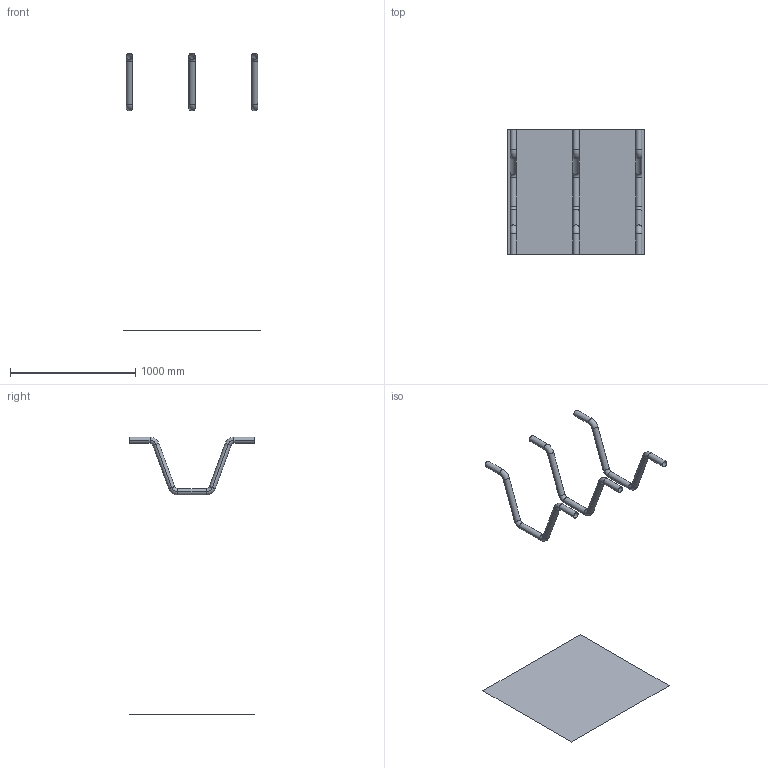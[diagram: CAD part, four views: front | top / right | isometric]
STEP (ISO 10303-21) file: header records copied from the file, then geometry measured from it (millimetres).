
FILE_DESCRIPTION(('CATIA V5 STEP Exchange'),'2;1');
FILE_NAME('C:\_Andres\UNIVERSIDAD\IQS\ASIGNATURAS\DAO\EXF\EXF-16172c\2inicio\Duch_Leira_Ej08_v10.stp','2017-03-05T21:54:50+00:00',('none'),('none'),'CATIA Version 5-6 Release 2014 SP1 HF18','CATIA V5 STEP AP203','none');
FILE_SCHEMA(('CONFIG_CONTROL_DESIGN'));
Length unit declared in the file: millimetre
Products named in the file (1): Duch_Leira_Ej08_v10
Bounding box: 1100 x 1000 x 2215 mm (x, y, z)
Surface area: 1824568 mm2 (no closed solid volume)
Topology: 0 solids, 4 shells, 55 faces, 118 edges, 64 vertices
Faces by surface type: cylinder 30, torus 24, plane 1
Entity records: 1283 total; most frequent: ORIENTED_EDGE 220, CARTESIAN_POINT 208, DIRECTION 168, EDGE_CURVE 118, AXIS2_PLACEMENT_3D 110, CIRCLE 84, VERTEX_POINT 64, ADVANCED_FACE 55
